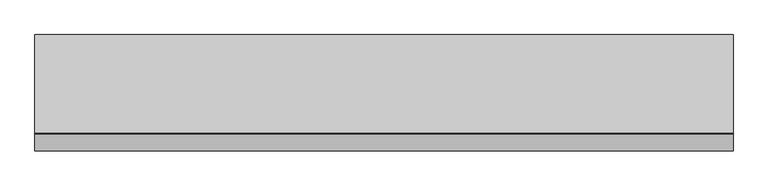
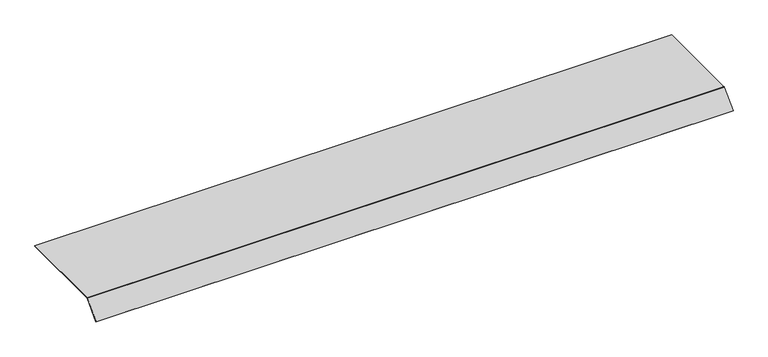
"""IFC4 building model written with IfcOpenShell, lengths in millimetres: proxy geometry, Electrical_Installation_Hager_Blank-Cover-800mm-Single-Sided-Height-70mm : Electrical_Installation_Hager_Blank-Cover-800mm-Single-Sided-Height-70mm."""

from ifc_helpers import new_model, si_unit, point, frame, frame_2d, origin, place, context, project, spatial, polyline, circle_curve, trimmed, segment, composite_curve, outline, extrude, source, transform, mapped, element, save


def electrical_fixtures_2036c011(model_context):
    return source(origin(), model_context, "Body", "SweptSolid", [
        extrude(outline(composite_curve([segment(polyline([(200.0, 40.5), (200.0, 37.5), (-199.8229541, 37.5)]), True, "CONTINUOUS"), segment(trimmed(circle_curve(frame_2d((-199.8229541, 36.0725733)), 1.4274267), [point((-199.8229541, 37.5))], [point((-200.8322972, 37.0819164))], True, "CARTESIAN"), True, "CONTINUOUS"), segment(polyline([(-200.8322972, 37.0819164), (-268.6627596, -30.7485461), (-270.78408, -28.6272257), (-202.8206472, 39.336207)]), True, "CONTINUOUS"), segment(trimmed(circle_curve(frame_2d((-200.0110025, 36.5265623)), 3.9734377), [point((-202.8206472, 39.336207))], [point((-200.0110025, 40.5))], False, "CARTESIAN"), True, "CONTINUOUS"), segment(polyline([(-200.0110025, 40.5), (200.0, 40.5)]), True, "CONTINUOUS")], self_intersect=False)), frame((0.0, 0.0, 0.0), z_axis=(1.0, 0.0, 0.0), x_axis=(0.0, 1.0, 0.0)), (0.0, 0.0, 1.0), 2821.5335139),
    ])


if __name__ == "__main__":
    model = new_model("IFC4")
    model_context = context("Model", 3, world=origin())
    ifc_project = project(units=[si_unit("LENGTHUNIT", "METRE", prefix="MILLI")], contexts=[model_context])
    site = spatial("IfcSite", under=ifc_project)
    building = spatial("IfcBuilding", under=site)
    placement = place(None, origin())
    electrical_fixtures_shape = electrical_fixtures_2036c011(model_context)
    element("IfcBuildingElementProxy", 1, Name="Electrical_Installation_Hager_Blank-Cover-800mm-Single-Sided-Height-70mm : Electrical_Installation_Hager_Blank-Cover-800mm-Single-Sided-Height-70mm", ObjectType="Electrical_Installation_Hager_Blank-Cover-800mm-Single-Sided-Height-70mm : Electrical_Installation_Hager_Blank-Cover-800mm-Single-Sided-Height-70mm", at=placement, inside=building, context=model_context, shape_type="MappedRepresentation", body=[
        mapped(electrical_fixtures_shape, transform((0.0, 0.0, 0.0), x_axis=(1.0, 0.0, 0.0), y_axis=(0.0, 1.0, 0.0), z_axis=(0.0, 0.0, 1.0))),
    ])
    save(model, "model.ifc")
